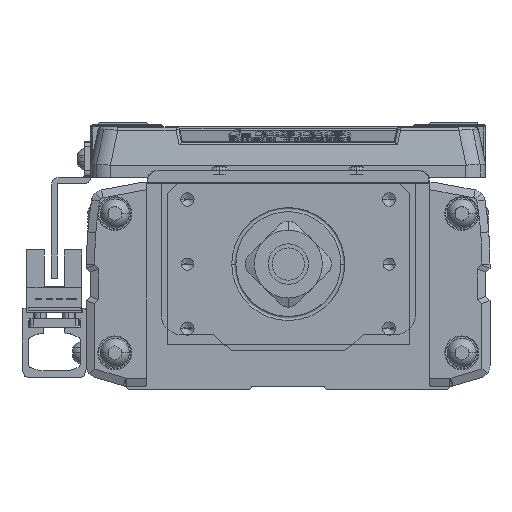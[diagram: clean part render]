
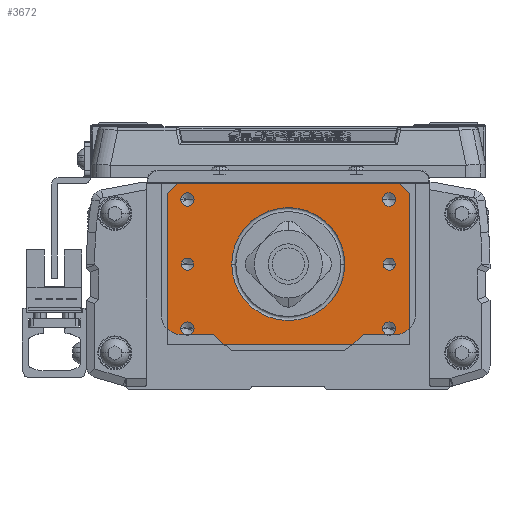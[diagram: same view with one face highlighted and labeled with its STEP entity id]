
A CAD part, left-side view. The second image highlights one B-rep face of the part: STEP entity #3672.
In plain terms, the highlighted planar face has unit normal (-1, 0, 0).
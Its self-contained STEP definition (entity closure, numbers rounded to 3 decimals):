
#3672=ADVANCED_FACE('',(#9149,#9150,#9151,#9152,#9153,#9154,#9155,#9156),#9157,.T.);
#9149=FACE_BOUND('',#17014,.T.);
#9150=FACE_BOUND('',#17015,.T.);
#9151=FACE_BOUND('',#17016,.T.);
#9152=FACE_BOUND('',#17017,.T.);
#9153=FACE_BOUND('',#17018,.T.);
#9154=FACE_BOUND('',#17019,.T.);
#9155=FACE_BOUND('',#17020,.T.);
#9156=FACE_OUTER_BOUND('',#17021,.T.);
#9157=PLANE('',#17022);
#17014=EDGE_LOOP('',(#27205,#27206));
#17015=EDGE_LOOP('',(#27207,#27208));
#17016=EDGE_LOOP('',(#27209,#27210));
#17017=EDGE_LOOP('',(#27211,#27212));
#17018=EDGE_LOOP('',(#27213,#27214));
#17019=EDGE_LOOP('',(#27215,#27216));
#17020=EDGE_LOOP('',(#27217,#27218,#27219));
#17021=EDGE_LOOP('',(#27220,#27221,#27222,#27223,#27224,#27225));
#17022=AXIS2_PLACEMENT_3D('',#27226,#27227,#27228);
#27205=ORIENTED_EDGE('',*,*,#47882,.T.);
#27206=ORIENTED_EDGE('',*,*,#47883,.T.);
#27207=ORIENTED_EDGE('',*,*,#47884,.T.);
#27208=ORIENTED_EDGE('',*,*,#47885,.T.);
#27209=ORIENTED_EDGE('',*,*,#47886,.T.);
#27210=ORIENTED_EDGE('',*,*,#47887,.T.);
#27211=ORIENTED_EDGE('',*,*,#47888,.T.);
#27212=ORIENTED_EDGE('',*,*,#47889,.T.);
#27213=ORIENTED_EDGE('',*,*,#47890,.T.);
#27214=ORIENTED_EDGE('',*,*,#46433,.T.);
#27215=ORIENTED_EDGE('',*,*,#47891,.T.);
#27216=ORIENTED_EDGE('',*,*,#47892,.T.);
#27217=ORIENTED_EDGE('',*,*,#47893,.T.);
#27218=ORIENTED_EDGE('',*,*,#47894,.T.);
#27219=ORIENTED_EDGE('',*,*,#47895,.T.);
#27220=ORIENTED_EDGE('',*,*,#47896,.F.);
#27221=ORIENTED_EDGE('',*,*,#47897,.F.);
#27222=ORIENTED_EDGE('',*,*,#45804,.T.);
#27223=ORIENTED_EDGE('',*,*,#47898,.T.);
#27224=ORIENTED_EDGE('',*,*,#47899,.F.);
#27225=ORIENTED_EDGE('',*,*,#47900,.T.);
#27226=CARTESIAN_POINT('',(-580.,0.,-20.));
#27227=DIRECTION('',(-1.0,0.,0.));
#27228=DIRECTION('',(0.,-1.0,0.));
#45804=EDGE_CURVE('',#54496,#54493,#54497,.T.);
#46433=EDGE_CURVE('',#55621,#55618,#55622,.T.);
#47882=EDGE_CURVE('',#58130,#58131,#58132,.T.);
#47883=EDGE_CURVE('',#58131,#58130,#58133,.T.);
#47884=EDGE_CURVE('',#58134,#58135,#58136,.T.);
#47885=EDGE_CURVE('',#58135,#58134,#58137,.T.);
#47886=EDGE_CURVE('',#58138,#58139,#58140,.T.);
#47887=EDGE_CURVE('',#58139,#58138,#58141,.T.);
#47888=EDGE_CURVE('',#58142,#58143,#58144,.T.);
#47889=EDGE_CURVE('',#58143,#58142,#58145,.T.);
#47890=EDGE_CURVE('',#55618,#55621,#58146,.T.);
#47891=EDGE_CURVE('',#58147,#58148,#58149,.T.);
#47892=EDGE_CURVE('',#58148,#58147,#58150,.T.);
#47893=EDGE_CURVE('',#58151,#58152,#58153,.T.);
#47894=EDGE_CURVE('',#58152,#58154,#58155,.T.);
#47895=EDGE_CURVE('',#58154,#58151,#58156,.T.);
#47896=EDGE_CURVE('',#58157,#58158,#58159,.T.);
#47897=EDGE_CURVE('',#54496,#58157,#58160,.T.);
#47898=EDGE_CURVE('',#54493,#58161,#58162,.T.);
#47899=EDGE_CURVE('',#58163,#58161,#58164,.T.);
#47900=EDGE_CURVE('',#58163,#58158,#58165,.T.);
#54493=VERTEX_POINT('',#67203);
#54496=VERTEX_POINT('',#67207);
#54497=LINE('',#67208,#67209);
#55618=VERTEX_POINT('',#68909);
#55621=VERTEX_POINT('',#68913);
#55622=CIRCLE('',#68914,1.65);
#58130=VERTEX_POINT('',#72332);
#58131=VERTEX_POINT('',#72333);
#58132=CIRCLE('',#72334,1.5);
#58133=CIRCLE('',#72335,1.5);
#58134=VERTEX_POINT('',#72336);
#58135=VERTEX_POINT('',#72337);
#58136=CIRCLE('',#72338,1.5);
#58137=CIRCLE('',#72339,1.5);
#58138=VERTEX_POINT('',#72340);
#58139=VERTEX_POINT('',#72341);
#58140=CIRCLE('',#72342,1.65);
#58141=CIRCLE('',#72343,1.65);
#58142=VERTEX_POINT('',#72344);
#58143=VERTEX_POINT('',#72345);
#58144=CIRCLE('',#72346,1.65);
#58145=CIRCLE('',#72347,1.65);
#58146=CIRCLE('',#72348,1.65);
#58147=VERTEX_POINT('',#72349);
#58148=VERTEX_POINT('',#72350);
#58149=CIRCLE('',#72351,1.65);
#58150=CIRCLE('',#72352,1.65);
#58151=VERTEX_POINT('',#72353);
#58152=VERTEX_POINT('',#72354);
#58153=CIRCLE('',#72355,14.0);
#58154=VERTEX_POINT('',#72356);
#58155=CIRCLE('',#72357,14.0);
#58156=CIRCLE('',#72358,14.0);
#58157=VERTEX_POINT('',#72359);
#58158=VERTEX_POINT('',#72360);
#58159=LINE('',#72361,#72362);
#58160=LINE('',#72363,#72364);
#58161=VERTEX_POINT('',#72365);
#58162=LINE('',#72366,#72367);
#58163=VERTEX_POINT('',#72368);
#58164=LINE('',#72369,#72370);
#58165=LINE('',#72371,#72372);
#67203=CARTESIAN_POINT('',(-580.,-30.,-20.));
#67207=CARTESIAN_POINT('',(-580.,30.,-20.));
#67208=CARTESIAN_POINT('',(-580.,30.,-20.));
#67209=VECTOR('',#84900,10.0);
#68909=CARTESIAN_POINT('',(-580.,26.65,16.));
#68913=CARTESIAN_POINT('',(-580.,23.35,16.));
#68914=AXIS2_PLACEMENT_3D('',#85747,#85748,#85749);
#72332=CARTESIAN_POINT('',(-580.,-26.5,0.));
#72333=CARTESIAN_POINT('',(-580.,-23.5,0.));
#72334=AXIS2_PLACEMENT_3D('',#87738,#87739,#87740);
#72335=AXIS2_PLACEMENT_3D('',#87741,#87742,#87743);
#72336=CARTESIAN_POINT('',(-580.,26.5,0.));
#72337=CARTESIAN_POINT('',(-580.,23.5,0.));
#72338=AXIS2_PLACEMENT_3D('',#87744,#87745,#87746);
#72339=AXIS2_PLACEMENT_3D('',#87747,#87748,#87749);
#72340=CARTESIAN_POINT('',(-580.,-26.65,-16.));
#72341=CARTESIAN_POINT('',(-580.,-23.35,-16.));
#72342=AXIS2_PLACEMENT_3D('',#87750,#87751,#87752);
#72343=AXIS2_PLACEMENT_3D('',#87753,#87754,#87755);
#72344=CARTESIAN_POINT('',(-580.,26.65,-16.));
#72345=CARTESIAN_POINT('',(-580.,23.35,-16.));
#72346=AXIS2_PLACEMENT_3D('',#87756,#87757,#87758);
#72347=AXIS2_PLACEMENT_3D('',#87759,#87760,#87761);
#72348=AXIS2_PLACEMENT_3D('',#87762,#87763,#87764);
#72349=CARTESIAN_POINT('',(-580.,-26.65,16.));
#72350=CARTESIAN_POINT('',(-580.,-23.35,16.));
#72351=AXIS2_PLACEMENT_3D('',#87765,#87766,#87767);
#72352=AXIS2_PLACEMENT_3D('',#87768,#87769,#87770);
#72353=CARTESIAN_POINT('',(-580.,0.,-14.));
#72354=CARTESIAN_POINT('',(-580.,14.,0.));
#72355=AXIS2_PLACEMENT_3D('',#87771,#87772,#87773);
#72356=CARTESIAN_POINT('',(-580.,-14.,0.));
#72357=AXIS2_PLACEMENT_3D('',#87774,#87775,#87776);
#72358=AXIS2_PLACEMENT_3D('',#87777,#87778,#87779);
#72359=CARTESIAN_POINT('',(-580.,30.,17.5));
#72360=CARTESIAN_POINT('',(-580.,27.5,20.));
#72361=CARTESIAN_POINT('',(-580.,31.25,16.25));
#72362=VECTOR('',#87780,10.);
#72363=CARTESIAN_POINT('',(-580.,30.,-20.));
#72364=VECTOR('',#87781,10.0);
#72365=CARTESIAN_POINT('',(-580.,-30.,17.5));
#72366=CARTESIAN_POINT('',(-580.,-30.,-20.));
#72367=VECTOR('',#87782,10.0);
#72368=CARTESIAN_POINT('',(-580.,-27.5,20.));
#72369=CARTESIAN_POINT('',(-580.,-31.25,16.25));
#72370=VECTOR('',#87783,10.);
#72371=CARTESIAN_POINT('',(-580.,30.,20.));
#72372=VECTOR('',#87784,10.0);
#84900=DIRECTION('',(0.,-1.0,0.));
#85747=CARTESIAN_POINT('',(-580.,25.,16.));
#85748=DIRECTION('',(1.0,0.,0.));
#85749=DIRECTION('',(0.,1.0,0.));
#87738=CARTESIAN_POINT('',(-580.,-25.,0.));
#87739=DIRECTION('',(1.0,0.,0.));
#87740=DIRECTION('',(0.,-1.0,0.));
#87741=CARTESIAN_POINT('',(-580.,-25.,0.));
#87742=DIRECTION('',(1.0,0.,0.));
#87743=DIRECTION('',(0.,-1.0,0.));
#87744=CARTESIAN_POINT('',(-580.,25.,0.));
#87745=DIRECTION('',(1.0,0.,0.));
#87746=DIRECTION('',(0.,1.0,0.));
#87747=CARTESIAN_POINT('',(-580.,25.,0.));
#87748=DIRECTION('',(1.0,0.,0.));
#87749=DIRECTION('',(0.,1.0,0.));
#87750=CARTESIAN_POINT('',(-580.,-25.,-16.));
#87751=DIRECTION('',(1.0,0.,0.));
#87752=DIRECTION('',(0.,-1.0,0.));
#87753=CARTESIAN_POINT('',(-580.,-25.,-16.));
#87754=DIRECTION('',(1.0,0.,0.));
#87755=DIRECTION('',(0.,-1.0,0.));
#87756=CARTESIAN_POINT('',(-580.,25.,-16.));
#87757=DIRECTION('',(1.0,0.,0.));
#87758=DIRECTION('',(0.,1.0,0.));
#87759=CARTESIAN_POINT('',(-580.,25.,-16.));
#87760=DIRECTION('',(1.0,0.,0.));
#87761=DIRECTION('',(0.,1.0,0.));
#87762=CARTESIAN_POINT('',(-580.,25.,16.));
#87763=DIRECTION('',(1.0,0.,0.));
#87764=DIRECTION('',(0.,1.0,0.));
#87765=CARTESIAN_POINT('',(-580.,-25.,16.));
#87766=DIRECTION('',(1.0,0.,0.));
#87767=DIRECTION('',(0.,-1.0,0.));
#87768=CARTESIAN_POINT('',(-580.,-25.,16.));
#87769=DIRECTION('',(1.0,0.,0.));
#87770=DIRECTION('',(0.,-1.0,0.));
#87771=CARTESIAN_POINT('',(-580.,0.,0.));
#87772=DIRECTION('',(1.0,0.,0.));
#87773=DIRECTION('',(0.,0.,1.0));
#87774=CARTESIAN_POINT('',(-580.,0.,0.));
#87775=DIRECTION('',(1.0,0.,0.));
#87776=DIRECTION('',(0.,0.,1.0));
#87777=CARTESIAN_POINT('',(-580.,0.,0.));
#87778=DIRECTION('',(1.0,0.,0.));
#87779=DIRECTION('',(0.,0.,1.0));
#87780=DIRECTION('',(0.,-0.707,0.707));
#87781=DIRECTION('',(0.,0.,1.0));
#87782=DIRECTION('',(0.,0.,1.0));
#87783=DIRECTION('',(0.0,-0.707,-0.707));
#87784=DIRECTION('',(0.,1.0,0.));
